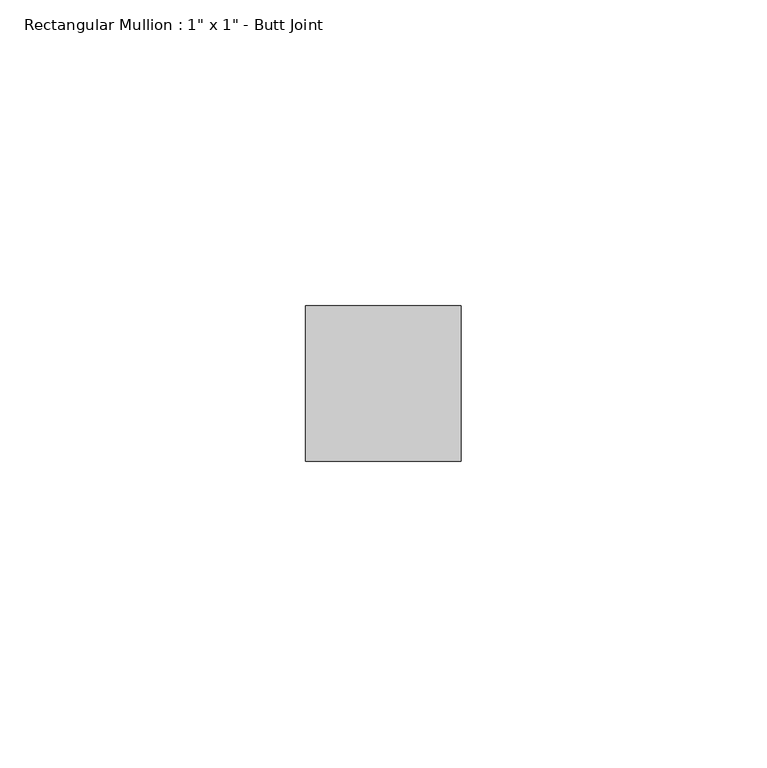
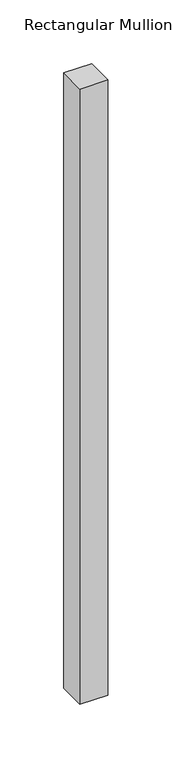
"""IFC4 building model written with IfcOpenShell, lengths in millimetres: member geometry."""

from ifc_helpers import new_model, si_unit, frame, origin, place, context, project, spatial, polyline, outline, extrude, source, transform, mapped, element, save


def member_818b941f(model_context):
    return source(origin(), model_context, "Body", "SweptSolid", [
        extrude(outline(polyline([(12.7, 12.7), (12.7, -12.7), (-12.7, -12.7), (-12.7, 12.7), (12.7, 12.7)])), frame((0.0, 0.0, -589.4898817), z_axis=(0.0, 0.0, 1.0), x_axis=(1.0, 0.0, 0.0)), (0.0, 0.0, 1.0), 589.4898817),
    ])


if __name__ == "__main__":
    model = new_model("IFC4")
    model_context = context("Model", 3, world=origin())
    ifc_project = project(units=[si_unit("LENGTHUNIT", "METRE", prefix="MILLI")], contexts=[model_context])
    site = spatial("IfcSite", under=ifc_project)
    building = spatial("IfcBuilding", under=site)
    placement = place(None, origin())
    member_shape = member_818b941f(model_context)
    element("IfcMember", 1, ObjectType="Rectangular Mullion : 1\" x 1\" - Butt Joint", at=placement, inside=building, context=model_context, shape_type="MappedRepresentation", body=[
        mapped(member_shape, transform((0.0, 0.0, 0.0), x_axis=(1.0, 0.0, 0.0), y_axis=(0.0, 1.0, 0.0), z_axis=(0.0, 0.0, 1.0))),
    ])
    save(model, "model.ifc")
